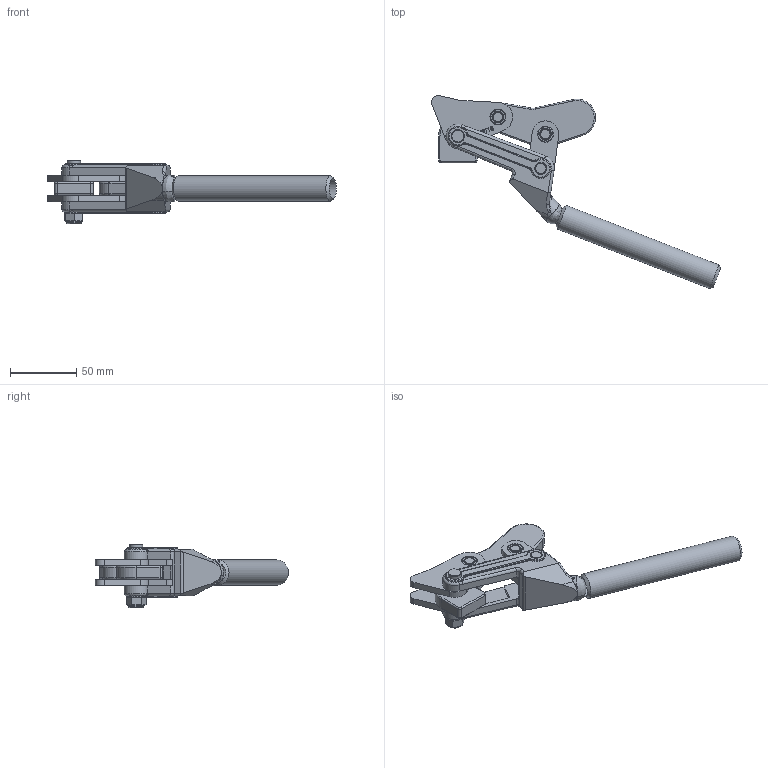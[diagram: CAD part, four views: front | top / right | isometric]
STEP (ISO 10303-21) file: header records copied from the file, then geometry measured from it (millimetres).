
FILE_DESCRIPTION(/* description */ ('STEP AP203'),/* implementation_level */ '2;1');
FILE_NAME(/* name */ 'D:\Vault_2016\Projekty\NASZ KATALOG\CLAMPTEK\STRONA\Heavy duty weldables\CH-70710\CH-70710_OTWARTY.stp',/* time_stamp */ '2019-01-15T15:13:11+01:00',/* author */ ('CADENGINEERING4'),/* organization */ ('Î¢ÈíÖÐ¹ú'),/* preprocessor_version */ 'ST-DEVELOPER v17.2',/* originating_system */ 'Autodesk Inventor 2019',/* authorisation */ '');
FILE_SCHEMA (('AUTOMOTIVE_DESIGN { 1 0 10303 214 3 1 1 }'));
Length unit declared in the file: millimetre
Products named in the file (11): CH-70710_OTWARTY; 70710-01_Ä¬ÈÏ; 70710-02_Ä¬ÈÏ; 70710-03_Ä¬ÈÏ; 70720-07_Ä¬ÈÏ; 70710-04_Ä¬ÈÏ; 70720-11_Ä¬ÈÏ; 70720-08_Ä¬ÈÏ; 70720-10_Ä¬ÈÏ; 70720-03_Ä¬ÈÏ; 70720-06_Ä¬ÈÏ
Assembly tree (20 placements, depth 2):
  CH-70710_OTWARTY
    70710-01_Ä¬ÈÏ
    70710-02_Ä¬ÈÏ  x2
    70710-03_Ä¬ÈÏ
    70720-07_Ä¬ÈÏ
    70720-06_Ä¬ÈÏ  x8
    70720-08_Ä¬ÈÏ  x2
    70710-04_Ä¬ÈÏ
    70720-11_Ä¬ÈÏ
    70720-10_Ä¬ÈÏ
    70720-03_Ä¬ÈÏ  x2
Bounding box: 217.43 x 145.25 x 48 mm (x, y, z)
Volume: 115131.2 mm3; surface area: 58042.9 mm2
Topology: 21 solids, 21 shells, 2560 faces, 6892 edges, 4602 vertices
Faces by surface type: plane 1641, cylinder 474, bspline 350, cone 54, torus 41
Full cylindrical faces by diameter (mm): 2.648 x2, 3.28 x2, 6.5 x4, 7 x1, 8 x20, 10 x1, 11 x1, 12 x8, 12.1 x8, 15 x1, 19 x1
Entity records: 66785 total; most frequent: CARTESIAN_POINT 22247, ORIENTED_EDGE 9458, DIRECTION 8896, EDGE_CURVE 4729, VERTEX_POINT 3146, AXIS2_PLACEMENT_3D 2989, LINE 2918, VECTOR 2918
